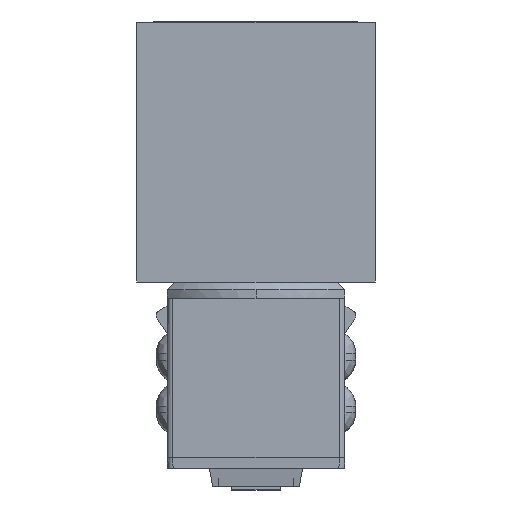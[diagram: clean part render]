
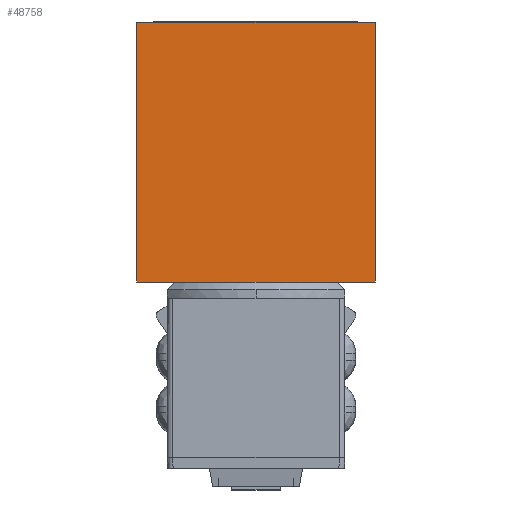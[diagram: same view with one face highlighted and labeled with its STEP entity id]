
A CAD part, front view. The second image highlights one B-rep face of the part: STEP entity #48758.
In plain terms, the highlighted planar face has unit normal (0, -1, 0) as drawn and (0, 0, 1) by its records, which use the part's own axes.
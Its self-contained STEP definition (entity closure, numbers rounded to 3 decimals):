
#901 = CARTESIAN_POINT ( 'NONE',  ( 0., 13.5, 109.5 ) ) ;
#3357 = CARTESIAN_POINT ( 'NONE',  ( 11., 0., 109.5 ) ) ;
#7719 = DIRECTION ( 'NONE',  ( 0., 1., 0. ) ) ;
#10379 = CARTESIAN_POINT ( 'NONE',  ( 11., -10.5, 109.5 ) ) ;
#13305 = LINE ( 'NONE', #45805, #48212 ) ;
#15530 = ORIENTED_EDGE ( 'NONE', *, *, #73959, .T. ) ;
#16109 = VERTEX_POINT ( 'NONE', #17803 ) ;
#16152 = EDGE_LOOP ( 'NONE', ( #60498, #82440, #15530, #58628 ) ) ;
#17803 = CARTESIAN_POINT ( 'NONE',  ( -11., -10.5, 109.5 ) ) ;
#29621 = DIRECTION ( 'NONE',  ( 0., 0., 1. ) ) ;
#33394 = DIRECTION ( 'NONE',  ( -1., 0., 0. ) ) ;
#35853 = DIRECTION ( 'NONE',  ( 0., 1., 0. ) ) ;
#37608 = FACE_OUTER_BOUND ( 'NONE', #16152, .T. ) ;
#45805 = CARTESIAN_POINT ( 'NONE',  ( -11., -10.5, 109.5 ) ) ;
#48212 = VECTOR ( 'NONE', #78266, 1000. ) ;
#48225 = LINE ( 'NONE', #80687, #54613 ) ;
#48758 = ADVANCED_FACE ( 'NONE', ( #37608 ), #70103, .T. ) ;
#54230 = VERTEX_POINT ( 'NONE', #10379 ) ;
#54613 = VECTOR ( 'NONE', #7719, 1000. ) ;
#58628 = ORIENTED_EDGE ( 'NONE', *, *, #87398, .F. ) ;
#60498 = ORIENTED_EDGE ( 'NONE', *, *, #64255, .F. ) ;
#61647 = VECTOR ( 'NONE', #35853, 1000. ) ;
#62101 = DIRECTION ( 'NONE',  ( 1., 0., 0. ) ) ;
#64255 = EDGE_CURVE ( 'NONE', #54230, #16109, #13305, .T. ) ;
#69539 = CARTESIAN_POINT ( 'NONE',  ( 11., 13.5, 109.5 ) ) ;
#70103 = PLANE ( 'NONE',  #80068 ) ;
#73885 = LINE ( 'NONE', #901, #81060 ) ;
#73959 = EDGE_CURVE ( 'NONE', #84354, #74757, #73885, .T. ) ;
#74757 = VERTEX_POINT ( 'NONE', #99521 ) ;
#76333 = LINE ( 'NONE', #3357, #61647 ) ;
#78266 = DIRECTION ( 'NONE',  ( -1., 0., 0. ) ) ;
#80068 = AXIS2_PLACEMENT_3D ( 'NONE', #102565, #29621, #62101 ) ;
#80687 = CARTESIAN_POINT ( 'NONE',  ( -11., 10.5, 109.5 ) ) ;
#81060 = VECTOR ( 'NONE', #33394, 1000. ) ;
#82440 = ORIENTED_EDGE ( 'NONE', *, *, #84783, .T. ) ;
#84354 = VERTEX_POINT ( 'NONE', #69539 ) ;
#84783 = EDGE_CURVE ( 'NONE', #54230, #84354, #76333, .T. ) ;
#87398 = EDGE_CURVE ( 'NONE', #16109, #74757, #48225, .T. ) ;
#99521 = CARTESIAN_POINT ( 'NONE',  ( -11., 13.5, 109.5 ) ) ;
#102565 = CARTESIAN_POINT ( 'NONE',  ( 0., 0., 109.5 ) ) ;
